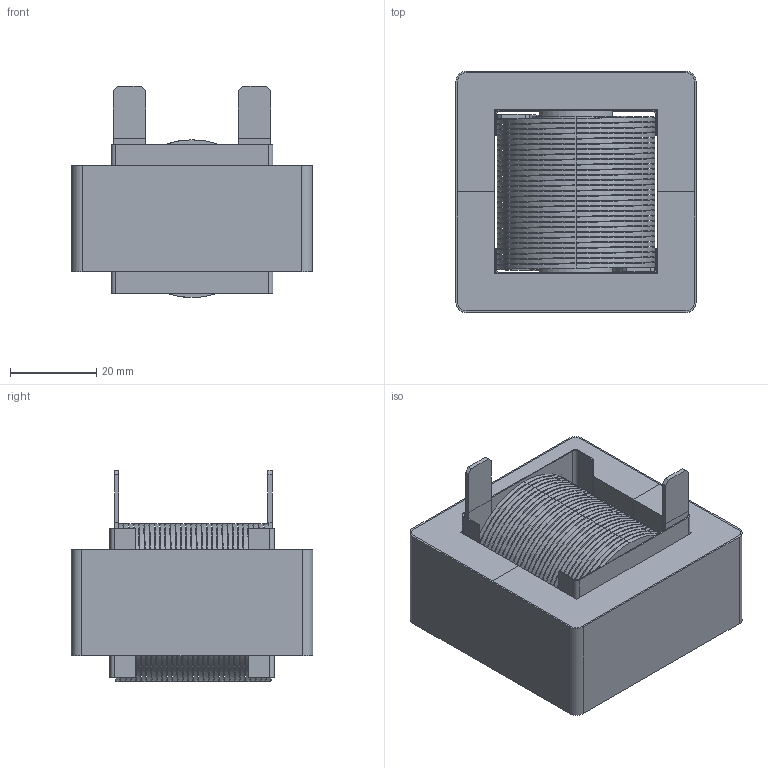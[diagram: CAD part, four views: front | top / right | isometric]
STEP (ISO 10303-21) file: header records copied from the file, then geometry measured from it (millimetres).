
FILE_DESCRIPTION (( 'STEP AP214' ), '1' );
FILE_NAME ('ES55246-171M-40AH.STEP', '2021-04-13T10:23:32', ( '' ), ( '' ), 'SwSTEP 2.0', 'SolidWorks 2015', '' );
FILE_SCHEMA (( 'AUTOMOTIVE_DESIGN' ));
Length unit declared in the file: millimetre
Products named in the file (6): SIDE MYLAR; ES55246-171M-40AH; HELICAL COIL; E CORE; WRAPPER; CENTER MYLAR
Assembly tree (7 placements, depth 2):
  ES55246-171M-40AH
    HELICAL COIL
    E CORE  x2
    SIDE MYLAR  x2
    CENTER MYLAR
    WRAPPER
Bounding box: 55.62 x 55.9 x 48.85 mm (x, y, z)
Volume: 72910.7 mm3; surface area: 82818.9 mm2
Topology: 9 solids, 9 shells, 392 faces, 1060 edges, 704 vertices
Faces by surface type: plane 181, cylinder 152, bspline 59
Entity records: 19546 total; most frequent: CARTESIAN_POINT 9490, ORIENTED_EDGE 1952, DIRECTION 1284, EDGE_CURVE 976, VERTEX_POINT 648, LINE 576, VECTOR 576, EDGE_LOOP 382
